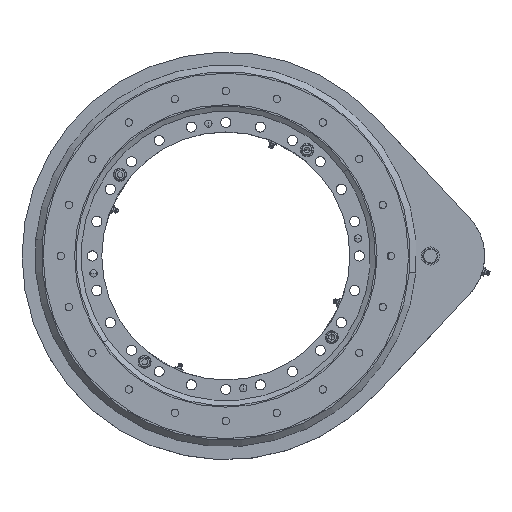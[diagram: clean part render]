
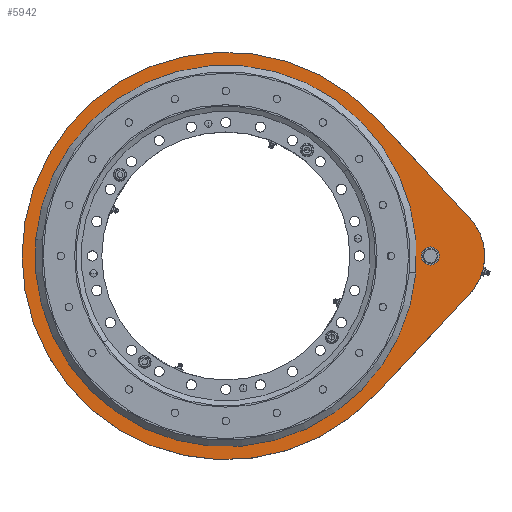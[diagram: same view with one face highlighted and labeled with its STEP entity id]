
A CAD part, top view. The second image highlights one B-rep face of the part: STEP entity #5942.
In plain terms, the highlighted planar face has unit normal (0, 0, 1).
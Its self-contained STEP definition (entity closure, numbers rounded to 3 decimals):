
#36 = ORIENTED_EDGE ( 'NONE', *, *, #10998, .T. ) ;
#102 = DIRECTION ( 'NONE',  ( 0., 0., -1. ) ) ;
#222 = CARTESIAN_POINT ( 'NONE',  ( 257.769, 38.514, 581.5 ) ) ;
#341 = DIRECTION ( 'NONE',  ( 1., 0., 0. ) ) ;
#500 = DIRECTION ( 'NONE',  ( 1., 0., 0. ) ) ;
#684 = CARTESIAN_POINT ( 'NONE',  ( 181.038, 230.414, 581.5 ) ) ;
#714 = EDGE_CURVE ( 'NONE', #18022, #20884, #4384, .T. ) ;
#781 = DIRECTION ( 'NONE',  ( 0.683, 0.73, 0. ) ) ;
#829 = AXIS2_PLACEMENT_3D ( 'NONE', #9786, #2400, #7861 ) ;
#1624 = ORIENTED_EDGE ( 'NONE', *, *, #17682, .T. ) ;
#1787 = EDGE_CURVE ( 'NONE', #5257, #2019, #13550, .T. ) ;
#1795 = FACE_BOUND ( 'NONE', #18885, .T. ) ;
#2019 = VERTEX_POINT ( 'NONE', #10546 ) ;
#2089 = DIRECTION ( 'NONE',  ( 1., 0., 0. ) ) ;
#2320 = DIRECTION ( 'NONE',  ( 0., 0., 1. ) ) ;
#2400 = DIRECTION ( 'NONE',  ( 0., 0., -1. ) ) ;
#3190 = AXIS2_PLACEMENT_3D ( 'NONE', #15220, #11374, #341 ) ;
#3323 = EDGE_CURVE ( 'NONE', #23910, #18124, #3583, .T. ) ;
#3494 = CARTESIAN_POINT ( 'NONE',  ( 247.269, 38.514, 581.5 ) ) ;
#3535 = VERTEX_POINT ( 'NONE', #8299 ) ;
#3583 = CIRCLE ( 'NONE', #829, 10.5 ) ;
#4275 = DIRECTION ( 'NONE',  ( 1., 0., 0. ) ) ;
#4384 = LINE ( 'NONE', #684, #15654 ) ;
#5009 = CIRCLE ( 'NONE', #5403, 281. ) ;
#5257 = VERTEX_POINT ( 'NONE', #13341 ) ;
#5403 = AXIS2_PLACEMENT_3D ( 'NONE', #9857, #10073, #500 ) ;
#5581 = PLANE ( 'NONE',  #17472 ) ;
#5721 = DIRECTION ( 'NONE',  ( -1., 0., 0. ) ) ;
#5942 = ADVANCED_FACE ( 'NONE', ( #21763, #18138, #1795 ), #5581, .T. ) ;
#6326 = CIRCLE ( 'NONE', #21384, 259. ) ;
#6407 = CARTESIAN_POINT ( 'NONE',  ( 181.038, -153.386, 581.5 ) ) ;
#6958 = CIRCLE ( 'NONE', #21609, 10.5 ) ;
#7102 = ORIENTED_EDGE ( 'NONE', *, *, #1787, .F. ) ;
#7338 = DIRECTION ( 'NONE',  ( 1., 0., 0. ) ) ;
#7517 = CARTESIAN_POINT ( 'NONE',  ( 312.556, -12.705, 581.5 ) ) ;
#7861 = DIRECTION ( 'NONE',  ( -1., 0., 0. ) ) ;
#7879 = AXIS2_PLACEMENT_3D ( 'NONE', #18888, #2320, #4275 ) ;
#8299 = CARTESIAN_POINT ( 'NONE',  ( -305.231, 38.514, 581.5 ) ) ;
#8904 = EDGE_CURVE ( 'NONE', #20884, #3535, #5009, .T. ) ;
#9716 = VECTOR ( 'NONE', #781, 1000. ) ;
#9786 = CARTESIAN_POINT ( 'NONE',  ( 257.769, 38.514, 581.5 ) ) ;
#9792 = DIRECTION ( 'NONE',  ( 1., 0., 0. ) ) ;
#9850 = CARTESIAN_POINT ( 'NONE',  ( -24.231, 38.514, 581.5 ) ) ;
#9857 = CARTESIAN_POINT ( 'NONE',  ( -24.231, 38.514, 581.5 ) ) ;
#9886 = VERTEX_POINT ( 'NONE', #7517 ) ;
#10073 = DIRECTION ( 'NONE',  ( 0., 0., 1. ) ) ;
#10241 = EDGE_LOOP ( 'NONE', ( #12577, #14166 ) ) ;
#10546 = CARTESIAN_POINT ( 'NONE',  ( -283.231, 38.514, 581.5 ) ) ;
#10998 = EDGE_CURVE ( 'NONE', #9886, #18022, #20945, .T. ) ;
#11374 = DIRECTION ( 'NONE',  ( 0., 0., 1. ) ) ;
#11586 = EDGE_CURVE ( 'NONE', #3535, #20625, #18669, .T. ) ;
#12050 = ORIENTED_EDGE ( 'NONE', *, *, #15738, .F. ) ;
#12577 = ORIENTED_EDGE ( 'NONE', *, *, #3323, .T. ) ;
#12879 = EDGE_CURVE ( 'NONE', #18124, #23910, #6958, .T. ) ;
#13341 = CARTESIAN_POINT ( 'NONE',  ( 234.769, 38.514, 581.5 ) ) ;
#13371 = LINE ( 'NONE', #6407, #9716 ) ;
#13550 = CIRCLE ( 'NONE', #17056, 259. ) ;
#13976 = CARTESIAN_POINT ( 'NONE',  ( 181.038, 230.414, 581.5 ) ) ;
#14166 = ORIENTED_EDGE ( 'NONE', *, *, #12879, .T. ) ;
#14545 = ORIENTED_EDGE ( 'NONE', *, *, #714, .T. ) ;
#14930 = CARTESIAN_POINT ( 'NONE',  ( -24.231, 38.514, 581.5 ) ) ;
#15220 = CARTESIAN_POINT ( 'NONE',  ( 257.769, 38.514, 581.5 ) ) ;
#15448 = CARTESIAN_POINT ( 'NONE',  ( 181.038, -153.386, 581.5 ) ) ;
#15544 = ORIENTED_EDGE ( 'NONE', *, *, #11586, .T. ) ;
#15654 = VECTOR ( 'NONE', #19584, 1000. ) ;
#15738 = EDGE_CURVE ( 'NONE', #2019, #5257, #6326, .T. ) ;
#17056 = AXIS2_PLACEMENT_3D ( 'NONE', #9850, #20831, #2089 ) ;
#17111 = CARTESIAN_POINT ( 'NONE',  ( 312.556, 89.733, 581.5 ) ) ;
#17204 = EDGE_LOOP ( 'NONE', ( #23339, #15544, #1624, #36, #14545 ) ) ;
#17472 = AXIS2_PLACEMENT_3D ( 'NONE', #14930, #22811, #9792 ) ;
#17682 = EDGE_CURVE ( 'NONE', #20625, #9886, #13371, .T. ) ;
#18022 = VERTEX_POINT ( 'NONE', #17111 ) ;
#18124 = VERTEX_POINT ( 'NONE', #19531 ) ;
#18138 = FACE_OUTER_BOUND ( 'NONE', #17204, .T. ) ;
#18669 = CIRCLE ( 'NONE', #7879, 281. ) ;
#18885 = EDGE_LOOP ( 'NONE', ( #7102, #12050 ) ) ;
#18888 = CARTESIAN_POINT ( 'NONE',  ( -24.231, 38.514, 581.5 ) ) ;
#19531 = CARTESIAN_POINT ( 'NONE',  ( 268.269, 38.514, 581.5 ) ) ;
#19584 = DIRECTION ( 'NONE',  ( -0.683, 0.73, 0. ) ) ;
#20625 = VERTEX_POINT ( 'NONE', #15448 ) ;
#20831 = DIRECTION ( 'NONE',  ( 0., 0., 1. ) ) ;
#20884 = VERTEX_POINT ( 'NONE', #13976 ) ;
#20945 = CIRCLE ( 'NONE', #3190, 75. ) ;
#21384 = AXIS2_PLACEMENT_3D ( 'NONE', #23748, #21942, #7338 ) ;
#21609 = AXIS2_PLACEMENT_3D ( 'NONE', #222, #102, #5721 ) ;
#21763 = FACE_BOUND ( 'NONE', #10241, .T. ) ;
#21942 = DIRECTION ( 'NONE',  ( 0., 0., 1. ) ) ;
#22811 = DIRECTION ( 'NONE',  ( 0., 0., 1. ) ) ;
#23339 = ORIENTED_EDGE ( 'NONE', *, *, #8904, .T. ) ;
#23748 = CARTESIAN_POINT ( 'NONE',  ( -24.231, 38.514, 581.5 ) ) ;
#23910 = VERTEX_POINT ( 'NONE', #3494 ) ;
